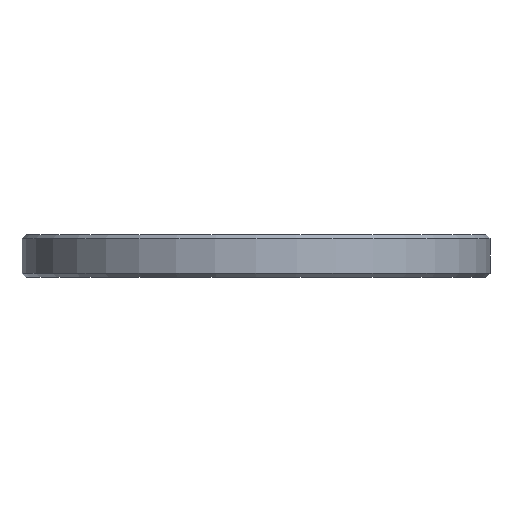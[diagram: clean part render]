
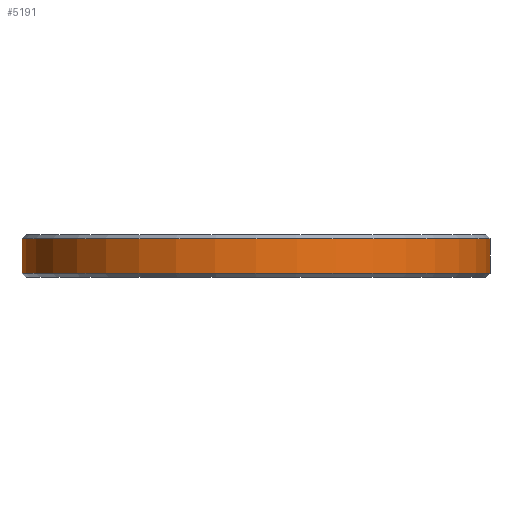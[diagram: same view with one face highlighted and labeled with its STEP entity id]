
A CAD part, front view. The second image highlights one B-rep face of the part: STEP entity #5191.
In plain terms, the highlighted cylindrical face has radius 17.188 mm (diameter 34.375 mm), a full revolution.
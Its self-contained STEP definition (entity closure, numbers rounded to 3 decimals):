
#23=CYLINDRICAL_SURFACE('',#5470,17.188);
#40=CIRCLE('',#5465,17.188);
#44=CIRCLE('',#5471,17.188);
#304=FACE_OUTER_BOUND('',#566,.T.);
#566=EDGE_LOOP('',(#4400,#4401,#4402,#4403));
#1293=LINE('',#8175,#2004);
#2004=VECTOR('',#6698,17.188);
#2480=VERTEX_POINT('',#8158);
#2486=VERTEX_POINT('',#8173);
#3196=EDGE_CURVE('',#2480,#2480,#40,.T.);
#3203=EDGE_CURVE('',#2486,#2486,#44,.T.);
#3204=EDGE_CURVE('',#2486,#2480,#1293,.T.);
#4400=ORIENTED_EDGE('',*,*,#3203,.F.);
#4401=ORIENTED_EDGE('',*,*,#3204,.T.);
#4402=ORIENTED_EDGE('',*,*,#3196,.F.);
#4403=ORIENTED_EDGE('',*,*,#3204,.F.);
#5191=ADVANCED_FACE('',(#304),#23,.T.);
#5465=AXIS2_PLACEMENT_3D('',#8159,#6681,#6682);
#5470=AXIS2_PLACEMENT_3D('',#8172,#6694,#6695);
#5471=AXIS2_PLACEMENT_3D('',#8174,#6696,#6697);
#6681=DIRECTION('center_axis',(0.,0.,-1.));
#6682=DIRECTION('ref_axis',(1.,0.,0.));
#6694=DIRECTION('center_axis',(0.,0.,1.));
#6695=DIRECTION('ref_axis',(1.,0.,0.));
#6696=DIRECTION('center_axis',(0.,0.,1.));
#6697=DIRECTION('ref_axis',(1.,0.,0.));
#6698=DIRECTION('',(0.,0.,-1.));
#8158=CARTESIAN_POINT('',(-17.188,0.,0.3));
#8159=CARTESIAN_POINT('Origin',(0.,0.,0.3));
#8172=CARTESIAN_POINT('Origin',(0.,0.,0.));
#8173=CARTESIAN_POINT('',(-17.188,0.,2.825));
#8174=CARTESIAN_POINT('Origin',(0.,0.,2.825));
#8175=CARTESIAN_POINT('',(-17.188,0.,0.));
